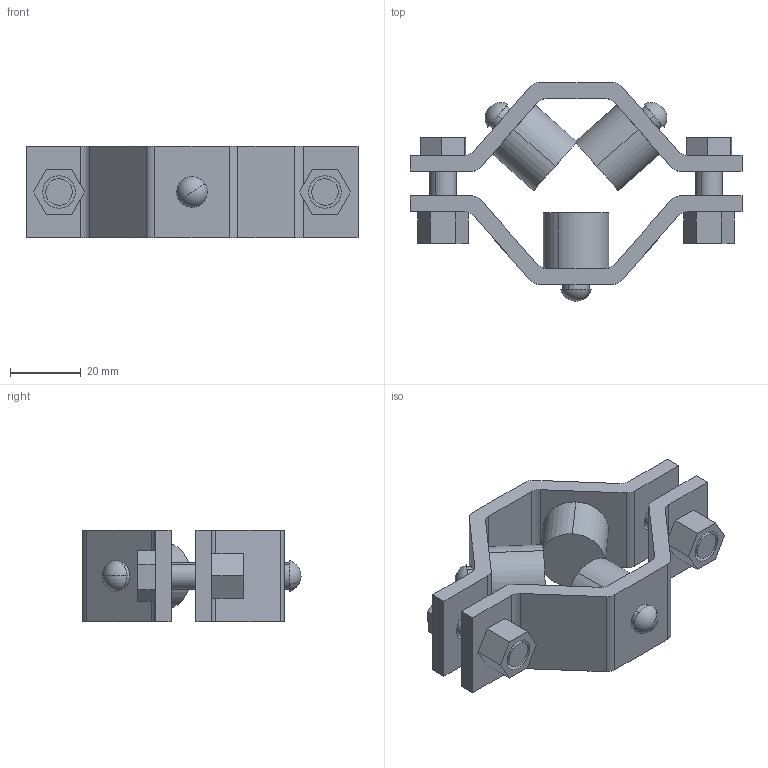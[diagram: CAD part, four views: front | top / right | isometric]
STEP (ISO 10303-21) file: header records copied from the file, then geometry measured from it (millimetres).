
FILE_DESCRIPTION (( 'STEP AP214' ), '1' );
FILE_NAME ('E24 0.5.STEP', '2025-07-16T18:09:48', ( '' ), ( '' ), 'SwSTEP 2.0', 'SolidWorks 2022', '' );
FILE_SCHEMA (( 'AUTOMOTIVE_DESIGN' ));
Length unit declared in the file: inch
Products named in the file (6): E24 0.5; E24GROMMET 0.5; E24-2HOLE 0.5; E24BOLT; E24NUT; E24-1HOLE 0.5
Assembly tree (9 placements, depth 2):
  E24 0.5
    E24-1HOLE 0.5
    E24-2HOLE 0.5
    E24BOLT  x2
    E24GROMMET 0.5  x3
    E24NUT  x2
Bounding box: 94.01 x 61.8 x 26.01 mm (x, y, z)
Volume: 43557.5 mm3; surface area: 22901.2 mm2
Topology: 9 solids, 9 shells, 133 faces, 318 edges, 213 vertices
Faces by surface type: plane 73, cylinder 54, sphere 6
Entity records: 3116 total; most frequent: DIRECTION 522, CARTESIAN_POINT 490, ORIENTED_EDGE 464, EDGE_CURVE 232, AXIS2_PLACEMENT_3D 187, VERTEX_POINT 155, LINE 148, VECTOR 148
